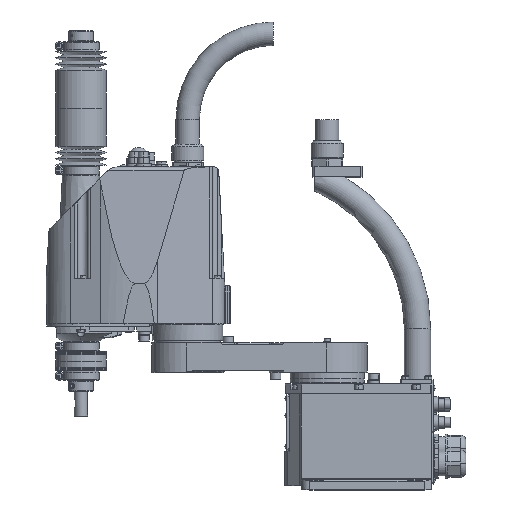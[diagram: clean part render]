
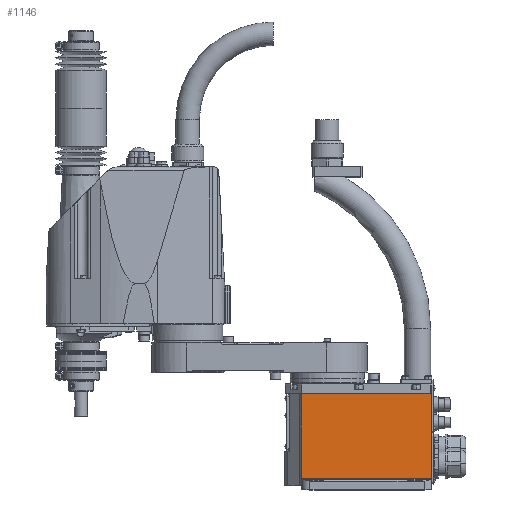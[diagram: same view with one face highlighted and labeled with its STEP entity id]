
A CAD part, top view. The second image highlights one B-rep face of the part: STEP entity #1146.
In plain terms, the highlighted planar face has unit normal (0, 0, 1).
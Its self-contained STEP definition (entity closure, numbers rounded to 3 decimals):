
#1146 = ADVANCED_FACE( '', ( #4025 ), #4026, .T. );
#4025 = FACE_OUTER_BOUND( '', #8392, .T. );
#4026 = PLANE( '', #8393 );
#8392 = EDGE_LOOP( '', ( #16872, #16873, #16874, #16875 ) );
#8393 = AXIS2_PLACEMENT_3D( '', #16876, #16877, #16878 );
#16872 = ORIENTED_EDGE( '', *, *, #28635, .T. );
#16873 = ORIENTED_EDGE( '', *, *, #28507, .T. );
#16874 = ORIENTED_EDGE( '', *, *, #28678, .T. );
#16875 = ORIENTED_EDGE( '', *, *, #28365, .F. );
#16876 = CARTESIAN_POINT( '', ( -51.5, 14., 50.5 ) );
#16877 = DIRECTION( '', ( 0., 0., 1. ) );
#16878 = DIRECTION( '', ( 0., -1., 0. ) );
#28365 = EDGE_CURVE( '', #34154, #34156, #34157, .T. );
#28507 = EDGE_CURVE( '', #34382, #34380, #34383, .T. );
#28635 = EDGE_CURVE( '', #34154, #34382, #34581, .T. );
#28678 = EDGE_CURVE( '', #34380, #34156, #34645, .T. );
#34154 = VERTEX_POINT( '', #43300 );
#34156 = VERTEX_POINT( '', #43302 );
#34157 = LINE( '', #43303, #43304 );
#34380 = VERTEX_POINT( '', #43757 );
#34382 = VERTEX_POINT( '', #43759 );
#34383 = LINE( '', #43760, #43761 );
#34581 = LINE( '', #44146, #44147 );
#34645 = LINE( '', #44268, #44269 );
#43300 = CARTESIAN_POINT( '', ( -31.897, 117., 50.5 ) );
#43302 = CARTESIAN_POINT( '', ( 127., 117., 50.5 ) );
#43303 = CARTESIAN_POINT( '', ( -51.5, 117., 50.5 ) );
#43304 = VECTOR( '', #56144, 1. );
#43757 = CARTESIAN_POINT( '', ( 127., 14., 50.5 ) );
#43759 = CARTESIAN_POINT( '', ( -31.897, 14., 50.5 ) );
#43760 = CARTESIAN_POINT( '', ( -51.5, 14., 50.5 ) );
#43761 = VECTOR( '', #56355, 1. );
#44146 = CARTESIAN_POINT( '', ( -31.897, 65.5, 50.5 ) );
#44147 = VECTOR( '', #56558, 1. );
#44268 = CARTESIAN_POINT( '', ( 127., 117., 50.5 ) );
#44269 = VECTOR( '', #56617, 1. );
#56144 = DIRECTION( '', ( 1., 0., 0. ) );
#56355 = DIRECTION( '', ( 1., 0., 0. ) );
#56558 = DIRECTION( '', ( 0., -1., 0. ) );
#56617 = DIRECTION( '', ( 0., 1., 0. ) );
